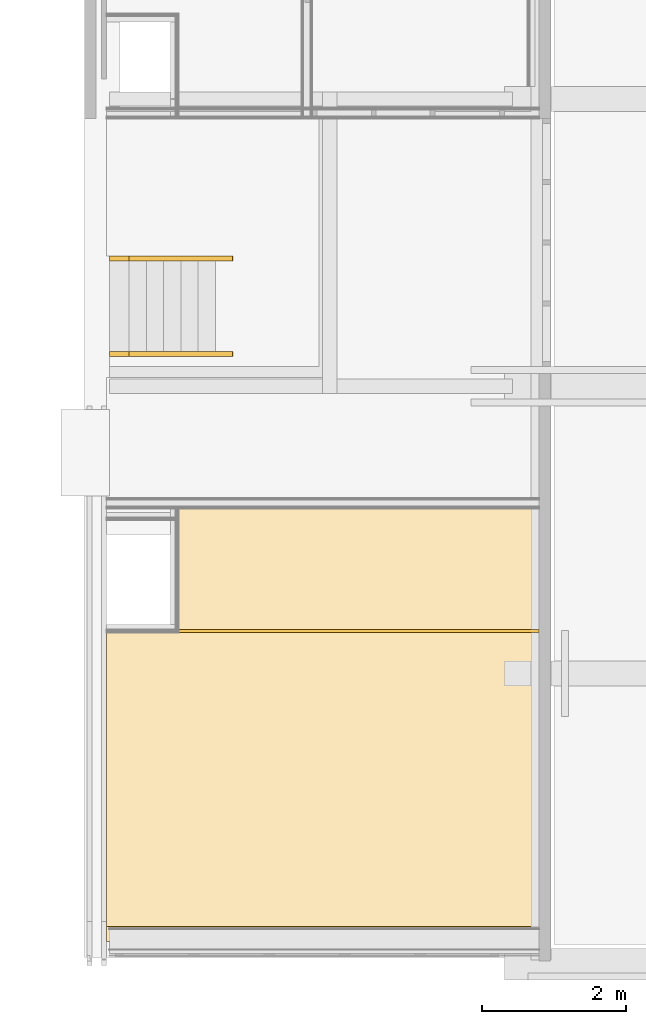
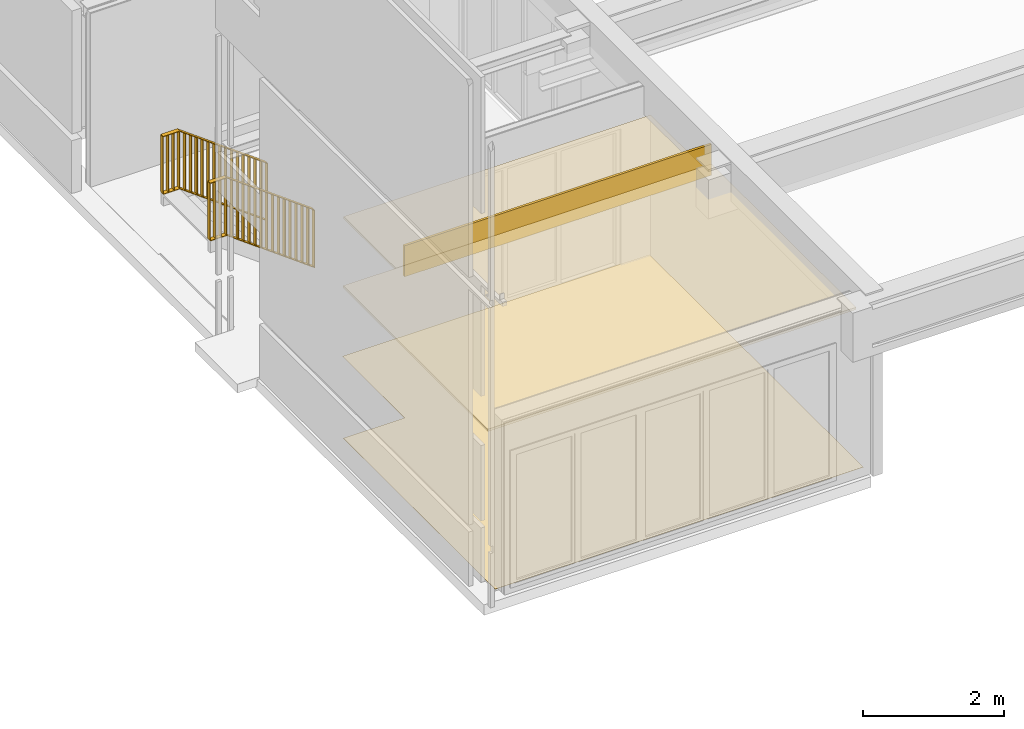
# One storey, part 10 of 13: 4 coverings, 2 railings.
"""IFC2X3 building model written with IfcOpenShell, lengths in millimetres."""

from ifc_helpers import new_model, entity, si_unit, converted_unit, derived_unit, money_unit, direction, frame, origin_with_axes, place, context, subcontext, project, spatial, faceted_brep, material, material_list, type_object, element, save


model = new_model("IFC2X3")

# Units and contexts
model_context = context("Model", 3, precision=0.01, world=origin_with_axes(), true_north=direction((0.0, 1.0)))
body_context = subcontext(model_context, "Body", "Model", "MODEL_VIEW")
ifc_project = project(units=[si_unit("LENGTHUNIT", "METRE", prefix="MILLI"), si_unit("AREAUNIT", "SQUARE_METRE"), si_unit("VOLUMEUNIT", "CUBIC_METRE"), converted_unit("PLANEANGLEUNIT", "DEGREE", entity("IfcPlaneAngleMeasure", 0.0174532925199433), si_unit("PLANEANGLEUNIT", "RADIAN"), dimensions=[0, 0, 0, 0, 0, 0, 0]), money_unit("EUR"), converted_unit("TIMEUNIT", "Year", entity("IfcTimeMeasure", 31557600.0), si_unit("TIMEUNIT", "SECOND"), dimensions=[0, 0, 1, 0, 0, 0, 0]), si_unit("MASSUNIT", "GRAM", prefix="KILO"), si_unit("THERMODYNAMICTEMPERATUREUNIT", "DEGREE_CELSIUS"), si_unit("LUMINOUSINTENSITYUNIT", "LUMEN"), si_unit("ENERGYUNIT", "JOULE", prefix="MEGA"), derived_unit("THERMALCONDUCTANCEUNIT", [(si_unit("POWERUNIT", "WATT"), 1), (si_unit("LENGTHUNIT", "METRE"), -1), (si_unit("THERMODYNAMICTEMPERATUREUNIT", "KELVIN"), -1)]), derived_unit("SPECIFICHEATCAPACITYUNIT", [(si_unit("ENERGYUNIT", "JOULE"), 1), (si_unit("MASSUNIT", "GRAM", prefix="KILO"), -1), (si_unit("THERMODYNAMICTEMPERATUREUNIT", "KELVIN"), -1)]), derived_unit("MASSDENSITYUNIT", [(si_unit("MASSUNIT", "GRAM", prefix="KILO"), 1), (si_unit("VOLUMEUNIT", "CUBIC_METRE"), -1)])], contexts=[model_context])

# Site, building, storey
site_placement = place(None, origin_with_axes())
site = spatial("IfcSite", under=ifc_project, at=site_placement, Name="<site naam>", CompositionType="ELEMENT")
building_placement = place(site_placement, origin_with_axes())
building = spatial("IfcBuilding", under=site, at=building_placement, Name="<Naam gebouw>", CompositionType="ELEMENT")
storey_placement = place(building_placement, frame((0.0, 0.0, 3188.0), z_axis=(0.0, 0.0, 1.0), x_axis=(1.0, 0.0, 0.0)))
storey = spatial("IfcBuildingStorey", under=building, at=storey_placement, Name="01 1e tussenverdieping", CompositionType="ELEMENT", Elevation=3188.0)

# Coverings
ifc_material_1 = material(Name="systeemplafond 600*600 kleur wit")
covering_type_1 = type_object("IfcCoveringType", Name="PA-01a 40", PredefinedType="CEILING")
covering_1_placement = place(storey_placement, frame((52134.99997543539, 478.0000000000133, 2600.0), z_axis=(0.0, 0.0, 1.0), x_axis=(1.0, 0.0, 0.0)))
element("IfcCovering", 1, at=covering_1_placement, inside=storey, type_object=covering_type_1, material=ifc_material_1, Name="45_Vloer_PA-01a", PredefinedType="CEILING", context=body_context, shape_type="Brep", body=[
    faceted_brep([(0.0, 0.0, 40.00000000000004), (0.0, 0.0, 0.0), (6022.78286927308, 0.0, 0.0), (6022.78286927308, 0.0, 40.00000000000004), (0.0, 4094.500000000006, 40.00000000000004), (0.0, 4094.500000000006, 0.0), (6022.78286927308, 4094.500000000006, 0.0), (6022.78286927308, 4094.500000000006, 40.00000000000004)], [[[0, 1, 2, 3]], [[4, 5, 1, 0]], [[2, 1, 5, 6]], [[3, 2, 6, 7]], [[4, 0, 3, 7]], [[7, 6, 5, 4]]]),
])
ifc_material_2 = material(Name="tapijttegel")
covering_type_2 = type_object("IfcCoveringType", Name="VA-05 3", PredefinedType="CEILING")
covering_2_placement = place(storey_placement, frame((52135.00002765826, 269.0000000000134, 0.0), z_axis=(0.0, 0.0, 1.0), x_axis=(1.0, 0.0, 0.0)))
element("IfcCovering", 2, at=covering_2_placement, inside=storey, type_object=covering_type_2, material=ifc_material_2, Name="43_Vloer_VA-05", PredefinedType="CEILING", context=body_context, shape_type="Brep", body=[
    faceted_brep([(0.0, 0.0, 3.000000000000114), (0.0, 0.0, 0.0), (6022.782817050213, 0.0, 0.0), (6022.782817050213, 0.0, 3.000000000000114), (0.0, 4303.500000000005, 3.000000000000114), (0.0, 4303.500000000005, 0.0), (1002.499972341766, 4303.500000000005, 0.0), (1002.499972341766, 6062.000000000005, 0.0), (6022.782817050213, 6062.000000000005, 0.0), (6022.782817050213, 6062.000000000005, 3.000000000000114), (1002.499972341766, 6062.000000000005, 3.000000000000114), (1002.499972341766, 4303.500000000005, 3.000000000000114)], [[[0, 1, 2, 3]], [[4, 5, 1, 0]], [[2, 1, 5, 6, 7, 8]], [[3, 2, 8, 9]], [[4, 0, 3, 9, 10, 11]], [[11, 6, 5, 4]], [[10, 7, 6, 11]], [[9, 8, 7, 10]]]),
])

# Railings
ifc_material_3 = material(Name="staal balustrade")
ifc_material_list = material_list([ifc_material_3, ifc_material_3, ifc_material_3, ifc_material_3, ifc_material_3, ifc_material_3, ifc_material_3, ifc_material_3, ifc_material_3, ifc_material_3, ifc_material_3, ifc_material_3, ifc_material_3, ifc_material_3, ifc_material_3, ifc_material_3, ifc_material_3, ifc_material_3, ifc_material_3, ifc_material_3, ifc_material_3, ifc_material_3, ifc_material_3])
railing_type = type_object("IfcRailingType", Name="Railing Type", PredefinedType="NOTDEFINED")
railing_1_placement = place(storey_placement, frame((53910.78241500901, 9815.000000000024, 0.0), z_axis=(0.0, 0.0, 1.0), x_axis=(1.0, 0.0, 0.0)))
element("IfcRailing", 3, at=railing_1_placement, inside=storey, type_object=railing_type, material=ifc_material_list, Name="34_Reling_", PredefinedType="NOTDEFINED", context=body_context, shape_type="Brep", body=[
    faceted_brep([(-26.40780957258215, 0.0, 14.99999999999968), (-26.40780957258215, -69.99999999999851, 14.99999999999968), (-26.40780957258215, -69.99999999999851, 994.9999999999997), (-26.40780957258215, 0.0, 994.9999999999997), (-16.40780957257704, 0.0, 14.99999999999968), (-16.40780957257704, -69.99999999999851, 14.99999999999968), (-16.40780957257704, -69.99999999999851, 994.9999999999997), (-16.40780957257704, 0.0, 994.9999999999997)], [[[0, 1, 2, 3]], [[0, 4, 5, 1]], [[1, 5, 6, 2]], [[3, 2, 6, 7]], [[4, 0, 3, 7]], [[5, 4, 7, 6]]]),
    faceted_brep([(-1466.407809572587, 0.0, 1077.0), (-1466.407809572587, -70.00000000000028, 1077.0), (-1466.407809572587, -70.00000000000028, 2056.999999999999), (-1466.407809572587, 0.0, 2056.999999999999), (-1456.407809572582, 0.0, 1077.0), (-1456.407809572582, -70.00000000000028, 1077.0), (-1456.407809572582, -70.00000000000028, 2056.999999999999), (-1456.407809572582, 0.0, 2056.999999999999)], [[[0, 1, 2, 3]], [[0, 4, 5, 1]], [[1, 5, 6, 2]], [[3, 2, 6, 7]], [[4, 0, 3, 7]], [[5, 4, 7, 6]]]),
    faceted_brep([(-1736.407809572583, 0.0, 1077.0), (-1736.407809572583, -70.00000000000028, 1077.0), (-1736.407809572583, -70.00000000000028, 2056.999999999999), (-1736.407809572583, 0.0, 2056.999999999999), (-1726.407809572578, 0.0, 1077.0), (-1726.407809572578, -70.00000000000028, 1077.0), (-1726.407809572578, -70.00000000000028, 2056.999999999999), (-1726.407809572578, 0.0, 2056.999999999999)], [[[0, 1, 2, 3]], [[0, 4, 5, 1]], [[1, 5, 6, 2]], [[3, 2, 6, 7]], [[4, 0, 3, 7]], [[5, 4, 7, 6]]]),
    faceted_brep([(-21.40780957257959, 0.0, 1004.999999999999), (-27.34323102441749, 0.0, 996.9519709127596), (-1464.696490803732, 0.0, 2057.0), (-1461.407809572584, 0.0, 2067.0), (-21.40780957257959, -69.99999999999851, 1004.999999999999), (-27.34323102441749, -69.99999999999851, 996.9519709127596), (-1464.696490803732, -70.00000000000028, 2057.0), (-1461.407809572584, -70.00000000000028, 2067.0)], [[[0, 1, 2, 3]], [[0, 4, 5, 1]], [[1, 5, 6, 2]], [[3, 2, 6, 7]], [[4, 0, 3, 7]], [[5, 4, 7, 6]]]),
    faceted_brep([(-18.44009884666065, 0.0, 9.02401454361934), (-24.37552029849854, 0.0, 0.975985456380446), (-1461.407809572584, 0.0, 1060.787298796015), (-1461.407809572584, 0.0, 1073.212701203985), (-18.44009884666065, -69.99999999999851, 9.02401454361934), (-24.37552029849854, -69.99999999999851, 0.975985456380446), (-1461.407809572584, -70.00000000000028, 1060.787298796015), (-1461.407809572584, -70.00000000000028, 1073.212701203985)], [[[0, 1, 2, 3]], [[0, 4, 5, 1]], [[1, 5, 6, 2]], [[3, 2, 6, 7]], [[4, 0, 3, 7]], [[5, 4, 7, 6]]]),
    faceted_brep([(-122.4078095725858, 0.0, 89.48749999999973), (-122.4078095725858, -69.99999999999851, 89.48749999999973), (-122.4078095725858, -69.99999999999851, 1069.4875), (-122.4078095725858, 0.0, 1069.4875), (-112.4078095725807, 0.0, 82.11250000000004), (-112.4078095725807, -69.99999999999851, 82.11250000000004), (-112.4078095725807, -69.99999999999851, 1062.1125), (-112.4078095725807, 0.0, 1062.1125)], [[[0, 1, 2, 3]], [[0, 4, 5, 1]], [[1, 5, 6, 2]], [[3, 2, 6, 7]], [[4, 0, 3, 7]], [[5, 4, 7, 6]]]),
    faceted_brep([(-218.4078095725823, 0.0, 160.2874999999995), (-218.4078095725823, -69.99999999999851, 160.2874999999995), (-218.4078095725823, -69.99999999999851, 1140.2875), (-218.4078095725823, 0.0, 1140.2875), (-208.4078095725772, 0.0, 152.9124999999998), (-208.4078095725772, -69.99999999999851, 152.9124999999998), (-208.4078095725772, -69.99999999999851, 1132.912499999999), (-208.4078095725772, 0.0, 1132.912499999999)], [[[0, 1, 2, 3]], [[0, 4, 5, 1]], [[1, 5, 6, 2]], [[3, 2, 6, 7]], [[4, 0, 3, 7]], [[5, 4, 7, 6]]]),
    faceted_brep([(-314.407809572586, 0.0, 231.0874999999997), (-314.407809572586, -69.99999999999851, 231.0874999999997), (-314.407809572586, -69.99999999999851, 1211.0875), (-314.407809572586, 0.0, 1211.0875), (-304.4078095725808, 0.0, 223.7125), (-304.4078095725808, -69.99999999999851, 223.7125), (-304.4078095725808, -69.99999999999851, 1203.712499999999), (-304.4078095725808, 0.0, 1203.712499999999)], [[[0, 1, 2, 3]], [[0, 4, 5, 1]], [[1, 5, 6, 2]], [[3, 2, 6, 7]], [[4, 0, 3, 7]], [[5, 4, 7, 6]]]),
    faceted_brep([(-410.4078095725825, 0.0, 301.8874999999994), (-410.4078095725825, -69.99999999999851, 301.8874999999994), (-410.4078095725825, -69.99999999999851, 1281.887499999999), (-410.4078095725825, 0.0, 1281.887499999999), (-400.4078095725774, 0.0, 294.5124999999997), (-400.4078095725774, -69.99999999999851, 294.5124999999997), (-400.4078095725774, -69.99999999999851, 1274.5125), (-400.4078095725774, 0.0, 1274.5125)], [[[0, 1, 2, 3]], [[0, 4, 5, 1]], [[1, 5, 6, 2]], [[3, 2, 6, 7]], [[4, 0, 3, 7]], [[5, 4, 7, 6]]]),
    faceted_brep([(-506.4078095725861, 0.0, 372.6874999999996), (-506.4078095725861, -69.99999999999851, 372.6874999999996), (-506.4078095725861, -69.99999999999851, 1352.6875), (-506.4078095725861, 0.0, 1352.6875), (-496.407809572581, 0.0, 365.3124999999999), (-496.407809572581, -69.99999999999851, 365.3124999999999), (-496.407809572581, -69.99999999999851, 1345.3125), (-496.407809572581, 0.0, 1345.3125)], [[[0, 1, 2, 3]], [[0, 4, 5, 1]], [[1, 5, 6, 2]], [[3, 2, 6, 7]], [[4, 0, 3, 7]], [[5, 4, 7, 6]]]),
    faceted_brep([(-602.4078095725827, 0.0, 443.4874999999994), (-602.4078095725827, -69.99999999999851, 443.4874999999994), (-602.4078095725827, -69.99999999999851, 1423.4875), (-602.4078095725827, 0.0, 1423.4875), (-592.4078095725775, 0.0, 436.1124999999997), (-592.4078095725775, -69.99999999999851, 436.1124999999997), (-592.4078095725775, -69.99999999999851, 1416.112499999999), (-592.4078095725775, 0.0, 1416.112499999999)], [[[0, 1, 2, 3]], [[0, 4, 5, 1]], [[1, 5, 6, 2]], [[3, 2, 6, 7]], [[4, 0, 3, 7]], [[5, 4, 7, 6]]]),
    faceted_brep([(-698.4078095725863, 0.0, 514.2874999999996), (-698.4078095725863, -69.99999999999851, 514.2874999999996), (-698.4078095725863, -69.99999999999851, 1494.2875), (-698.4078095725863, 0.0, 1494.2875), (-688.4078095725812, 0.0, 506.9124999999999), (-688.4078095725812, -69.99999999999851, 506.9124999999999), (-688.4078095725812, -69.99999999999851, 1486.912499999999), (-688.4078095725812, 0.0, 1486.912499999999)], [[[0, 1, 2, 3]], [[0, 4, 5, 1]], [[1, 5, 6, 2]], [[3, 2, 6, 7]], [[4, 0, 3, 7]], [[5, 4, 7, 6]]]),
    faceted_brep([(-794.4078095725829, 0.0, 585.0874999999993), (-794.4078095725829, -70.00000000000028, 585.0874999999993), (-794.4078095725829, -70.00000000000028, 1565.087499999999), (-794.4078095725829, 0.0, 1565.087499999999), (-784.4078095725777, 0.0, 577.7124999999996), (-784.4078095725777, -70.00000000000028, 577.7124999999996), (-784.4078095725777, -70.00000000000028, 1557.7125), (-784.4078095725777, 0.0, 1557.7125)], [[[0, 1, 2, 3]], [[0, 4, 5, 1]], [[1, 5, 6, 2]], [[3, 2, 6, 7]], [[4, 0, 3, 7]], [[5, 4, 7, 6]]]),
    faceted_brep([(-890.4078095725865, 0.0, 655.8874999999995), (-890.4078095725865, -70.00000000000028, 655.8874999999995), (-890.4078095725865, -70.00000000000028, 1635.8875), (-890.4078095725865, 0.0, 1635.8875), (-880.4078095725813, 0.0, 648.5124999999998), (-880.4078095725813, -70.00000000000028, 648.5124999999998), (-880.4078095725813, -70.00000000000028, 1628.5125), (-880.4078095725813, 0.0, 1628.5125)], [[[0, 1, 2, 3]], [[0, 4, 5, 1]], [[1, 5, 6, 2]], [[3, 2, 6, 7]], [[4, 0, 3, 7]], [[5, 4, 7, 6]]]),
    faceted_brep([(-986.407809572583, 0.0, 726.6874999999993), (-986.407809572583, -70.00000000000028, 726.6874999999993), (-986.407809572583, -70.00000000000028, 1706.6875), (-986.407809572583, 0.0, 1706.6875), (-976.4078095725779, 0.0, 719.3124999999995), (-976.4078095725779, -70.00000000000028, 719.3124999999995), (-976.4078095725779, -70.00000000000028, 1699.312499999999), (-976.4078095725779, 0.0, 1699.312499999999)], [[[0, 1, 2, 3]], [[0, 4, 5, 1]], [[1, 5, 6, 2]], [[3, 2, 6, 7]], [[4, 0, 3, 7]], [[5, 4, 7, 6]]]),
    faceted_brep([(-1082.407809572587, 0.0, 797.4874999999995), (-1082.407809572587, -70.00000000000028, 797.4874999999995), (-1082.407809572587, -70.00000000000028, 1777.4875), (-1082.407809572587, 0.0, 1777.4875), (-1072.407809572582, 0.0, 790.1124999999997), (-1072.407809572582, -70.00000000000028, 790.1124999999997), (-1072.407809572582, -70.00000000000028, 1770.112499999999), (-1072.407809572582, 0.0, 1770.112499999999)], [[[0, 1, 2, 3]], [[0, 4, 5, 1]], [[1, 5, 6, 2]], [[3, 2, 6, 7]], [[4, 0, 3, 7]], [[5, 4, 7, 6]]]),
    faceted_brep([(-1178.407809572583, 0.0, 868.2874999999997), (-1178.407809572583, -70.00000000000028, 868.2874999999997), (-1178.407809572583, -70.00000000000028, 1848.2875), (-1178.407809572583, 0.0, 1848.2875), (-1168.407809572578, 0.0, 860.9125), (-1168.407809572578, -70.00000000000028, 860.9125), (-1168.407809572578, -70.00000000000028, 1840.912499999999), (-1168.407809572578, 0.0, 1840.912499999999)], [[[0, 1, 2, 3]], [[0, 4, 5, 1]], [[1, 5, 6, 2]], [[3, 2, 6, 7]], [[4, 0, 3, 7]], [[5, 4, 7, 6]]]),
    faceted_brep([(-1274.407809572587, 0.0, 939.0874999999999), (-1274.407809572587, -70.00000000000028, 939.0874999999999), (-1274.407809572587, -70.00000000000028, 1919.0875), (-1274.407809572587, 0.0, 1919.0875), (-1264.407809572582, 0.0, 931.7125000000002), (-1264.407809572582, -70.00000000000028, 931.7125000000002), (-1264.407809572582, -70.00000000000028, 1911.7125), (-1264.407809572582, 0.0, 1911.7125)], [[[0, 1, 2, 3]], [[0, 4, 5, 1]], [[1, 5, 6, 2]], [[3, 2, 6, 7]], [[4, 0, 3, 7]], [[5, 4, 7, 6]]]),
    faceted_brep([(-1370.407809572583, 0.0, 1009.887499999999), (-1370.407809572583, -70.00000000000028, 1009.887499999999), (-1370.407809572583, -70.00000000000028, 1989.8875), (-1370.407809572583, 0.0, 1989.8875), (-1360.407809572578, 0.0, 1002.512499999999), (-1360.407809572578, -70.00000000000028, 1002.512499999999), (-1360.407809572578, -70.00000000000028, 1982.512499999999), (-1360.407809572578, 0.0, 1982.512499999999)], [[[0, 1, 2, 3]], [[0, 4, 5, 1]], [[1, 5, 6, 2]], [[3, 2, 6, 7]], [[4, 0, 3, 7]], [[5, 4, 7, 6]]]),
    faceted_brep([(-1461.407809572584, 0.0, 2067.0), (-1464.696490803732, 0.0, 2057.0), (-1731.40780957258, 0.0, 2057.0), (-1731.40780957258, 0.0, 2067.0), (-1461.407809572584, -70.00000000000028, 2067.0), (-1464.696490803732, -70.00000000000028, 2057.0), (-1731.40780957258, -70.00000000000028, 2057.0), (-1731.40780957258, -70.00000000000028, 2067.0)], [[[0, 1, 2, 3]], [[0, 4, 5, 1]], [[1, 5, 6, 2]], [[3, 2, 6, 7]], [[4, 0, 3, 7]], [[5, 4, 7, 6]]]),
    faceted_brep([(-1461.407809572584, 0.0, 1072.0), (-1461.407809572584, 0.0, 1062.0), (-1731.40780957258, 0.0, 1062.0), (-1731.40780957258, 0.0, 1072.0), (-1461.407809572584, -70.00000000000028, 1072.0), (-1461.407809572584, -70.00000000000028, 1062.0), (-1731.40780957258, -70.00000000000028, 1062.0), (-1731.40780957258, -70.00000000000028, 1072.0)], [[[0, 1, 2, 3]], [[0, 4, 5, 1]], [[1, 5, 6, 2]], [[3, 2, 6, 7]], [[4, 0, 3, 7]], [[5, 4, 7, 6]]]),
    faceted_brep([(-1556.407809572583, 0.0, 1077.0), (-1556.407809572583, -70.00000000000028, 1077.0), (-1556.407809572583, -70.00000000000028, 2057.0), (-1556.407809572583, 0.0, 2057.0), (-1546.407809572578, 0.0, 1077.0), (-1546.407809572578, -70.00000000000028, 1077.0), (-1546.407809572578, -70.00000000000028, 2057.0), (-1546.407809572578, 0.0, 2057.0)], [[[0, 1, 2, 3]], [[0, 4, 5, 1]], [[1, 5, 6, 2]], [[3, 2, 6, 7]], [[4, 0, 3, 7]], [[5, 4, 7, 6]]]),
    faceted_brep([(-1646.407809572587, 0.0, 1077.0), (-1646.407809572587, -70.00000000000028, 1077.0), (-1646.407809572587, -70.00000000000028, 2057.0), (-1646.407809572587, 0.0, 2057.0), (-1636.407809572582, 0.0, 1077.0), (-1636.407809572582, -70.00000000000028, 1077.0), (-1636.407809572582, -70.00000000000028, 2057.0), (-1636.407809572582, 0.0, 2057.0)], [[[0, 1, 2, 3]], [[0, 4, 5, 1]], [[1, 5, 6, 2]], [[3, 2, 6, 7]], [[4, 0, 3, 7]], [[5, 4, 7, 6]]]),
])
railing_2_placement = place(storey_placement, frame((53911.32698593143, 8415.000000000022, 0.0), z_axis=(0.0, 0.0, 1.0), x_axis=(1.0, 0.0, 0.0)))
element("IfcRailing", 4, at=railing_2_placement, inside=storey, type_object=railing_type, material=ifc_material_list, Name="34_Reling_", PredefinedType="NOTDEFINED", context=body_context, shape_type="Brep", body=[
    faceted_brep([(-26.95238049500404, 0.0, 14.99999999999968), (-26.95238049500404, 0.0, 994.9999999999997), (-26.95238049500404, 70.00000000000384, 994.9999999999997), (-26.95238049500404, 70.00000000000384, 14.99999999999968), (-16.95238049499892, 0.0, 14.99999999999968), (-16.95238049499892, 0.0, 994.9999999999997), (-16.95238049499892, 70.00000000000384, 994.9999999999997), (-16.95238049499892, 70.00000000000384, 14.99999999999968)], [[[0, 1, 2, 3]], [[4, 5, 1, 0]], [[1, 5, 6, 2]], [[3, 2, 6, 7]], [[0, 3, 7, 4]], [[7, 6, 5, 4]]]),
    faceted_brep([(-1466.952380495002, 0.0, 1077.0), (-1466.952380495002, 0.0, 2056.999999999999), (-1466.952380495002, 70.00000000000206, 2056.999999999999), (-1466.952380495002, 70.00000000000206, 1077.0), (-1456.952380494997, 0.0, 1077.0), (-1456.952380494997, 0.0, 2056.999999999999), (-1456.952380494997, 70.00000000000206, 2056.999999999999), (-1456.952380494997, 70.00000000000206, 1077.0)], [[[0, 1, 2, 3]], [[4, 5, 1, 0]], [[1, 5, 6, 2]], [[3, 2, 6, 7]], [[0, 3, 7, 4]], [[7, 6, 5, 4]]]),
    faceted_brep([(-1736.952380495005, 0.0, 1077.0), (-1736.952380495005, 0.0, 2056.999999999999), (-1736.952380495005, 70.00000000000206, 2056.999999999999), (-1736.952380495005, 70.00000000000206, 1077.0), (-1726.952380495, 0.0, 1077.0), (-1726.952380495, 0.0, 2056.999999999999), (-1726.952380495, 70.00000000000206, 2056.999999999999), (-1726.952380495, 70.00000000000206, 1077.0)], [[[0, 1, 2, 3]], [[4, 5, 1, 0]], [[1, 5, 6, 2]], [[3, 2, 6, 7]], [[0, 3, 7, 4]], [[7, 6, 5, 4]]]),
    faceted_brep([(-21.95238049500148, 70.00000000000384, 1004.999999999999), (-27.88780194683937, 70.00000000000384, 996.9519709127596), (-1465.241061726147, 70.00000000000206, 2057.0), (-1461.952380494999, 70.00000000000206, 2067.0), (-21.95238049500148, 0.0, 1004.999999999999), (-27.88780194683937, 0.0, 996.9519709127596), (-1465.241061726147, 0.0, 2057.0), (-1461.952380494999, 0.0, 2067.0)], [[[0, 1, 2, 3]], [[0, 4, 5, 1]], [[1, 5, 6, 2]], [[3, 2, 6, 7]], [[4, 0, 3, 7]], [[5, 4, 7, 6]]]),
    faceted_brep([(-18.98466976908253, 70.00000000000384, 9.02401454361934), (-24.92009122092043, 70.00000000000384, 0.975985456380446), (-1461.952380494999, 70.00000000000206, 1060.787298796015), (-1461.952380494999, 70.00000000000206, 1073.212701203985), (-18.98466976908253, 0.0, 9.02401454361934), (-24.92009122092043, 0.0, 0.975985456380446), (-1461.952380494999, 0.0, 1060.787298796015), (-1461.952380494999, 0.0, 1073.212701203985)], [[[0, 1, 2, 3]], [[0, 4, 5, 1]], [[1, 5, 6, 2]], [[3, 2, 6, 7]], [[4, 0, 3, 7]], [[5, 4, 7, 6]]]),
    faceted_brep([(-122.9523804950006, 0.0, 89.48749999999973), (-122.9523804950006, 0.0, 1069.4875), (-122.9523804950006, 70.00000000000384, 1069.4875), (-122.9523804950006, 70.00000000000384, 89.48749999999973), (-112.9523804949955, 0.0, 82.11250000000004), (-112.9523804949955, 0.0, 1062.1125), (-112.9523804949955, 70.00000000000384, 1062.1125), (-112.9523804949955, 70.00000000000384, 82.11250000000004)], [[[0, 1, 2, 3]], [[4, 5, 1, 0]], [[1, 5, 6, 2]], [[3, 2, 6, 7]], [[0, 3, 7, 4]], [[7, 6, 5, 4]]]),
    faceted_brep([(-218.9523804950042, 0.0, 160.2874999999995), (-218.9523804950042, 0.0, 1140.2875), (-218.9523804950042, 70.00000000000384, 1140.2875), (-218.9523804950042, 70.00000000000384, 160.2874999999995), (-208.9523804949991, 0.0, 152.9124999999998), (-208.9523804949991, 0.0, 1132.912499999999), (-208.9523804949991, 70.00000000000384, 1132.912499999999), (-208.9523804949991, 70.00000000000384, 152.9124999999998)], [[[0, 1, 2, 3]], [[4, 5, 1, 0]], [[1, 5, 6, 2]], [[3, 2, 6, 7]], [[0, 3, 7, 4]], [[7, 6, 5, 4]]]),
    faceted_brep([(-314.9523804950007, 0.0, 231.0874999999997), (-314.9523804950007, 0.0, 1211.0875), (-314.9523804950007, 70.00000000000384, 1211.0875), (-314.9523804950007, 70.00000000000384, 231.0874999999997), (-304.9523804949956, 0.0, 223.7125), (-304.9523804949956, 0.0, 1203.712499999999), (-304.9523804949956, 70.00000000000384, 1203.712499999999), (-304.9523804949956, 70.00000000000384, 223.7125)], [[[0, 1, 2, 3]], [[4, 5, 1, 0]], [[1, 5, 6, 2]], [[3, 2, 6, 7]], [[0, 3, 7, 4]], [[7, 6, 5, 4]]]),
    faceted_brep([(-410.9523804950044, 0.0, 301.8874999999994), (-410.9523804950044, 0.0, 1281.887499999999), (-410.9523804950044, 70.00000000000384, 1281.887499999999), (-410.9523804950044, 70.00000000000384, 301.8874999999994), (-400.9523804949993, 0.0, 294.5124999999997), (-400.9523804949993, 0.0, 1274.5125), (-400.9523804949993, 70.00000000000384, 1274.5125), (-400.9523804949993, 70.00000000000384, 294.5124999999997)], [[[0, 1, 2, 3]], [[4, 5, 1, 0]], [[1, 5, 6, 2]], [[3, 2, 6, 7]], [[0, 3, 7, 4]], [[7, 6, 5, 4]]]),
    faceted_brep([(-506.9523804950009, 0.0, 372.6874999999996), (-506.9523804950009, 0.0, 1352.6875), (-506.9523804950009, 70.00000000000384, 1352.6875), (-506.9523804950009, 70.00000000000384, 372.6874999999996), (-496.9523804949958, 0.0, 365.3124999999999), (-496.9523804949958, 0.0, 1345.3125), (-496.9523804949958, 70.00000000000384, 1345.3125), (-496.9523804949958, 70.00000000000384, 365.3124999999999)], [[[0, 1, 2, 3]], [[4, 5, 1, 0]], [[1, 5, 6, 2]], [[3, 2, 6, 7]], [[0, 3, 7, 4]], [[7, 6, 5, 4]]]),
    faceted_brep([(-602.9523804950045, 0.0, 443.4874999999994), (-602.9523804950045, 0.0, 1423.4875), (-602.9523804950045, 70.00000000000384, 1423.4875), (-602.9523804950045, 70.00000000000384, 443.4874999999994), (-592.9523804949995, 0.0, 436.1124999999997), (-592.9523804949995, 0.0, 1416.112499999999), (-592.9523804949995, 70.00000000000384, 1416.112499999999), (-592.9523804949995, 70.00000000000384, 436.1124999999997)], [[[0, 1, 2, 3]], [[4, 5, 1, 0]], [[1, 5, 6, 2]], [[3, 2, 6, 7]], [[0, 3, 7, 4]], [[7, 6, 5, 4]]]),
    faceted_brep([(-698.9523804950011, 0.0, 514.2874999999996), (-698.9523804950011, 0.0, 1494.2875), (-698.9523804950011, 70.00000000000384, 1494.2875), (-698.9523804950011, 70.00000000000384, 514.2874999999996), (-688.952380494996, 0.0, 506.9124999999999), (-688.952380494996, 0.0, 1486.912499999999), (-688.952380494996, 70.00000000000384, 1486.912499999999), (-688.952380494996, 70.00000000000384, 506.9124999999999)], [[[0, 1, 2, 3]], [[4, 5, 1, 0]], [[1, 5, 6, 2]], [[3, 2, 6, 7]], [[0, 3, 7, 4]], [[7, 6, 5, 4]]]),
    faceted_brep([(-794.9523804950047, 0.0, 585.0874999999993), (-794.9523804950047, 0.0, 1565.087499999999), (-794.9523804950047, 70.00000000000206, 1565.087499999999), (-794.9523804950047, 70.00000000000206, 585.0874999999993), (-784.9523804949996, 0.0, 577.7124999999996), (-784.9523804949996, 0.0, 1557.7125), (-784.9523804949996, 70.00000000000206, 1557.7125), (-784.9523804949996, 70.00000000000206, 577.7124999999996)], [[[0, 1, 2, 3]], [[4, 5, 1, 0]], [[1, 5, 6, 2]], [[3, 2, 6, 7]], [[0, 3, 7, 4]], [[7, 6, 5, 4]]]),
    faceted_brep([(-890.9523804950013, 0.0, 655.8874999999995), (-890.9523804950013, 0.0, 1635.8875), (-890.9523804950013, 70.00000000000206, 1635.8875), (-890.9523804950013, 70.00000000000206, 655.8874999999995), (-880.9523804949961, 0.0, 648.5124999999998), (-880.9523804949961, 0.0, 1628.5125), (-880.9523804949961, 70.00000000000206, 1628.5125), (-880.9523804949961, 70.00000000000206, 648.5124999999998)], [[[0, 1, 2, 3]], [[4, 5, 1, 0]], [[1, 5, 6, 2]], [[3, 2, 6, 7]], [[0, 3, 7, 4]], [[7, 6, 5, 4]]]),
    faceted_brep([(-986.952380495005, 0.0, 726.6874999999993), (-986.952380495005, 0.0, 1706.6875), (-986.952380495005, 70.00000000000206, 1706.6875), (-986.952380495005, 70.00000000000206, 726.6874999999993), (-976.9523804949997, 0.0, 719.3124999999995), (-976.9523804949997, 0.0, 1699.312499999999), (-976.9523804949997, 70.00000000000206, 1699.312499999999), (-976.9523804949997, 70.00000000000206, 719.3124999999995)], [[[0, 1, 2, 3]], [[4, 5, 1, 0]], [[1, 5, 6, 2]], [[3, 2, 6, 7]], [[0, 3, 7, 4]], [[7, 6, 5, 4]]]),
    faceted_brep([(-1082.952380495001, 0.0, 797.4874999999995), (-1082.952380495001, 0.0, 1777.4875), (-1082.952380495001, 70.00000000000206, 1777.4875), (-1082.952380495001, 70.00000000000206, 797.4874999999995), (-1072.952380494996, 0.0, 790.1124999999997), (-1072.952380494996, 0.0, 1770.112499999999), (-1072.952380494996, 70.00000000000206, 1770.112499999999), (-1072.952380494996, 70.00000000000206, 790.1124999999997)], [[[0, 1, 2, 3]], [[4, 5, 1, 0]], [[1, 5, 6, 2]], [[3, 2, 6, 7]], [[0, 3, 7, 4]], [[7, 6, 5, 4]]]),
    faceted_brep([(-1178.952380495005, 0.0, 868.2874999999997), (-1178.952380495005, 0.0, 1848.2875), (-1178.952380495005, 70.00000000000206, 1848.2875), (-1178.952380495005, 70.00000000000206, 868.2874999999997), (-1168.952380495, 0.0, 860.9125), (-1168.952380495, 0.0, 1840.912499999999), (-1168.952380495, 70.00000000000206, 1840.912499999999), (-1168.952380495, 70.00000000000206, 860.9125)], [[[0, 1, 2, 3]], [[4, 5, 1, 0]], [[1, 5, 6, 2]], [[3, 2, 6, 7]], [[0, 3, 7, 4]], [[7, 6, 5, 4]]]),
    faceted_brep([(-1274.952380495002, 0.0, 939.0874999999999), (-1274.952380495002, 0.0, 1919.0875), (-1274.952380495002, 70.00000000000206, 1919.0875), (-1274.952380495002, 70.00000000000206, 939.0874999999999), (-1264.952380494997, 0.0, 931.7125000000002), (-1264.952380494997, 0.0, 1911.7125), (-1264.952380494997, 70.00000000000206, 1911.7125), (-1264.952380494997, 70.00000000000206, 931.7125000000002)], [[[0, 1, 2, 3]], [[4, 5, 1, 0]], [[1, 5, 6, 2]], [[3, 2, 6, 7]], [[0, 3, 7, 4]], [[7, 6, 5, 4]]]),
    faceted_brep([(-1370.952380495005, 0.0, 1009.887499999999), (-1370.952380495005, 0.0, 1989.8875), (-1370.952380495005, 70.00000000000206, 1989.8875), (-1370.952380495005, 70.00000000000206, 1009.887499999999), (-1360.952380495, 0.0, 1002.512499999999), (-1360.952380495, 0.0, 1982.512499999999), (-1360.952380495, 70.00000000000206, 1982.512499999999), (-1360.952380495, 70.00000000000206, 1002.512499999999)], [[[0, 1, 2, 3]], [[4, 5, 1, 0]], [[1, 5, 6, 2]], [[3, 2, 6, 7]], [[0, 3, 7, 4]], [[7, 6, 5, 4]]]),
    faceted_brep([(-1461.952380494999, 70.00000000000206, 2067.0), (-1465.241061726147, 70.00000000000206, 2057.0), (-1731.952380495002, 70.00000000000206, 2057.0), (-1731.952380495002, 70.00000000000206, 2067.0), (-1461.952380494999, 0.0, 2067.0), (-1465.241061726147, 0.0, 2057.0), (-1731.952380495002, 0.0, 2057.0), (-1731.952380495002, 0.0, 2067.0)], [[[0, 1, 2, 3]], [[0, 4, 5, 1]], [[1, 5, 6, 2]], [[3, 2, 6, 7]], [[4, 0, 3, 7]], [[5, 4, 7, 6]]]),
    faceted_brep([(-1461.952380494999, 70.00000000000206, 1072.0), (-1461.952380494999, 70.00000000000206, 1062.0), (-1731.952380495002, 70.00000000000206, 1062.0), (-1731.952380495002, 70.00000000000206, 1072.0), (-1461.952380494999, 0.0, 1072.0), (-1461.952380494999, 0.0, 1062.0), (-1731.952380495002, 0.0, 1062.0), (-1731.952380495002, 0.0, 1072.0)], [[[0, 1, 2, 3]], [[0, 4, 5, 1]], [[1, 5, 6, 2]], [[3, 2, 6, 7]], [[4, 0, 3, 7]], [[5, 4, 7, 6]]]),
    faceted_brep([(-1556.952380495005, 0.0, 1077.0), (-1556.952380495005, 0.0, 2057.0), (-1556.952380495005, 70.00000000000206, 2057.0), (-1556.952380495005, 70.00000000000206, 1077.0), (-1546.952380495, 0.0, 1077.0), (-1546.952380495, 0.0, 2057.0), (-1546.952380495, 70.00000000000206, 2057.0), (-1546.952380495, 70.00000000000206, 1077.0)], [[[0, 1, 2, 3]], [[4, 5, 1, 0]], [[1, 5, 6, 2]], [[3, 2, 6, 7]], [[0, 3, 7, 4]], [[7, 6, 5, 4]]]),
    faceted_brep([(-1646.952380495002, 0.0, 1077.0), (-1646.952380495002, 0.0, 2057.0), (-1646.952380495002, 70.00000000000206, 2057.0), (-1646.952380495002, 70.00000000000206, 1077.0), (-1636.952380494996, 0.0, 1077.0), (-1636.952380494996, 0.0, 2057.0), (-1636.952380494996, 70.00000000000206, 2057.0), (-1636.952380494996, 70.00000000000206, 1077.0)], [[[0, 1, 2, 3]], [[4, 5, 1, 0]], [[1, 5, 6, 2]], [[3, 2, 6, 7]], [[0, 3, 7, 4]], [[7, 6, 5, 4]]]),
])

# Coverings
ifc_material_4 = material(Name="aftimmering/koven multiplex")
covering_type_3 = type_object("IfcCoveringType", Name="aftimmering/koven multiplex 537", PredefinedType="CEILING")
covering_3_placement = place(storey_placement, frame((53137.50000000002, 4572.500000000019, 2440.0), z_axis=(0.0, 0.0, 1.0), x_axis=(1.0, 0.0, 0.0)))
element("IfcCovering", 5, at=covering_3_placement, inside=storey, type_object=covering_type_3, material=ifc_material_4, Name="45_Vloer_aftimmering/koven", PredefinedType="CEILING", context=body_context, shape_type="Brep", body=[
    faceted_brep([(0.0, 0.0, 536.9999999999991), (0.0, 0.0, 0.0), (5020.282808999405, 0.0, 0.0), (5020.282808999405, 0.0, 536.9999999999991), (0.0, 40.00001046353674, 536.9999999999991), (0.0, 40.00001046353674, 0.0), (5020.282808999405, 40.00001046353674, 0.0), (5020.282808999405, 40.00001046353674, 536.9999999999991)], [[[0, 1, 2, 3]], [[4, 5, 1, 0]], [[2, 1, 5, 6]], [[3, 2, 6, 7]], [[4, 0, 3, 7]], [[7, 6, 5, 4]]]),
])
covering_type_4 = type_object("IfcCoveringType", Name="aftimmering/koven multiplex 40", PredefinedType="CEILING")
covering_4_placement = place(storey_placement, frame((53137.50000000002, 4572.500000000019, 2400.0), z_axis=(0.0, 0.0, 1.0), x_axis=(1.0, 0.0, 0.0)))
element("IfcCovering", 6, at=covering_4_placement, inside=storey, type_object=covering_type_4, material=ifc_material_4, Name="45_Vloer_aftimmering/koven", PredefinedType="CEILING", context=body_context, shape_type="Brep", body=[
    faceted_brep([(0.0, 0.0, 40.00000000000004), (0.0, 0.0, 0.0), (5020.282833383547, 0.0, 0.0), (5020.282833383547, 0.0, 40.00000000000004), (0.0, 1722.5, 40.00000000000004), (0.0, 1722.5, 0.0), (5020.282833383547, 1722.5, 0.0), (5020.282833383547, 1722.5, 40.00000000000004)], [[[0, 1, 2, 3]], [[4, 5, 1, 0]], [[2, 1, 5, 6]], [[3, 2, 6, 7]], [[4, 0, 3, 7]], [[7, 6, 5, 4]]]),
])

save(model, "model.ifc")
